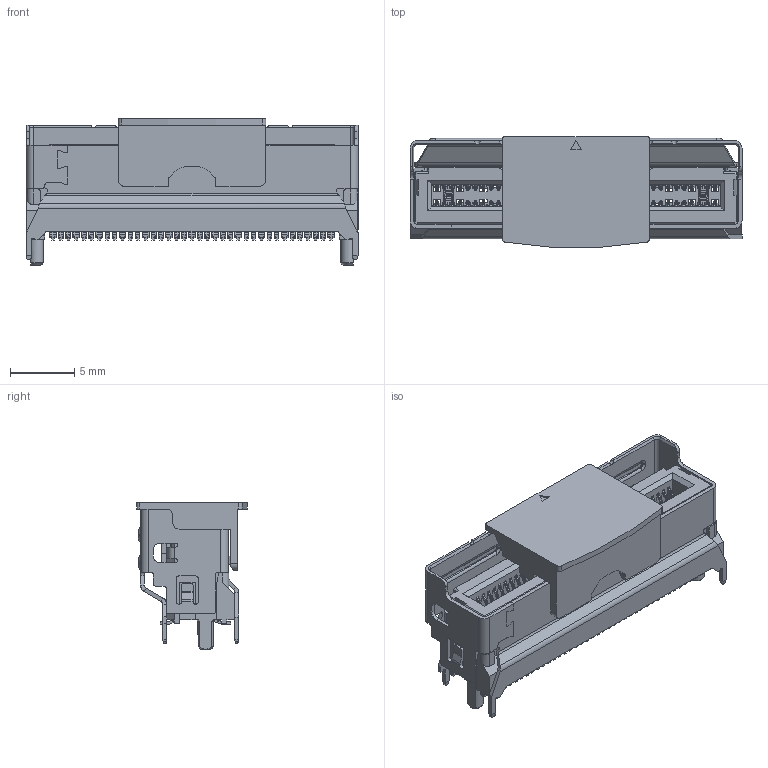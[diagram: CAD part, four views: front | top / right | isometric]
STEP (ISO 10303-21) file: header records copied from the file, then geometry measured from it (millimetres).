
FILE_DESCRIPTION((''),'2;1');
FILE_NAME('MCIO_VT_8X_GEN6_ASM','2024-12-19T15:28:28',('binfu-xlc'),(''),'CREO PARAMETRIC BY PTC INC, 2021063','CREO PARAMETRIC BY PTC INC, 2021063','');
FILE_SCHEMA(('AUTOMOTIVE_DESIGN { 1 0 10303 214 1 1 1 1 }'));
Products named in the file (11): GND_BAR_HSG; HOUSING; GND_TML_7_4_1_1; S_TML_A_12_4_1_1; S_TML_B_8_3_1_1; MCIO_VT_STANDARD_IM_37P_T_1_1_2; IM_ASM; SHELL; GND; CAP; MCIO_VT_8X_GEN6_ASM
Assembly tree (45 placements, depth 3):
  MCIO_VT_8X_GEN6_ASM
    GND_BAR_HSG
    HOUSING
    IM_ASM  x2
      GND_TML_7_4_1_1
      S_TML_A_12_4_1_1
      S_TML_B_8_3_1_1
      MCIO_VT_STANDARD_IM_37P_T_1_1_2
    SHELL
    GND
    CAP
Bounding box: 25.8 x 8.61 x 11.4 mm (x, y, z)
Volume: 733.9 mm3; surface area: 3836.3 mm2
Topology: 81 solids, 81 shells, 7989 faces, 22538 edges, 14691 vertices
Faces by surface type: plane 5079, cylinder 2644, torus 161, cone 74, bspline 31
Entity records: 140404 total; most frequent: CARTESIAN_POINT 21996, ORIENTED_EDGE 20016, DIRECTION 18407, EDGE_CURVE 10008, PRESENTATION_STYLE_ASSIGNMENT 8372, STYLED_ITEM 8372, CURVE_STYLE 8361, VECTOR 8133
